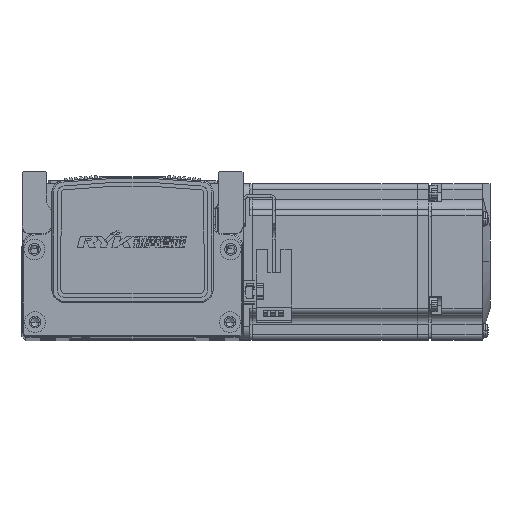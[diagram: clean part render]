
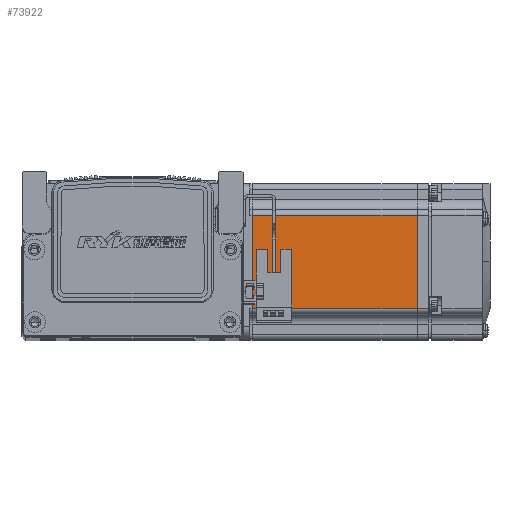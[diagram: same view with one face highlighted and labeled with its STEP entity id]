
A CAD part, top view. The second image highlights one B-rep face of the part: STEP entity #73922.
In plain terms, the highlighted planar face has unit normal (0, 0, 1) as drawn and (0, 0, -1) by its records, which use the part's own axes.
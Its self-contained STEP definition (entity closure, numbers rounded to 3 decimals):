
#14605 = LINE ( 'NONE', #22176, #14640 ) ;
#14625 = LINE ( 'NONE', #22168, #14641 ) ;
#14640 = VECTOR ( 'NONE', #22166, 1000. ) ;
#14641 = VECTOR ( 'NONE', #22146, 1000. ) ;
#14659 = LINE ( 'NONE', #22251, #14694 ) ;
#14666 = LINE ( 'NONE', #22227, #14673 ) ;
#14673 = VECTOR ( 'NONE', #22258, 1000. ) ;
#14694 = VECTOR ( 'NONE', #22229, 1000. ) ;
#19160 = CARTESIAN_POINT ( 'NONE',  ( -7.75, -18., -30. ) ) ;
#19164 = CARTESIAN_POINT ( 'NONE',  ( -70.95, 18., -30. ) ) ;
#19186 = CARTESIAN_POINT ( 'NONE',  ( -7.75, 18., -30. ) ) ;
#19230 = CARTESIAN_POINT ( 'NONE',  ( -70.95, -18., -30. ) ) ;
#22146 = DIRECTION ( 'NONE',  ( -1., 0., 0. ) ) ;
#22166 = DIRECTION ( 'NONE',  ( 0., -1., 0. ) ) ;
#22168 = CARTESIAN_POINT ( 'NONE',  ( -6.5, -18., -30. ) ) ;
#22176 = CARTESIAN_POINT ( 'NONE',  ( -7.75, 25., -30. ) ) ;
#22227 = CARTESIAN_POINT ( 'NONE',  ( -70.95, 25., -30. ) ) ;
#22229 = DIRECTION ( 'NONE',  ( 1., 0., 0. ) ) ;
#22251 = CARTESIAN_POINT ( 'NONE',  ( -6.5, 18., -30. ) ) ;
#22258 = DIRECTION ( 'NONE',  ( 0., 1., 0. ) ) ;
#30911 = FACE_OUTER_BOUND ( 'NONE', #61016, .T. ) ;
#35648 = DIRECTION ( 'NONE',  ( 0., 0., -1. ) ) ;
#35710 = CARTESIAN_POINT ( 'NONE',  ( -6.5, 25., -30. ) ) ;
#35718 = PLANE ( 'NONE',  #38382 ) ;
#35730 = DIRECTION ( 'NONE',  ( -1., 0., 0. ) ) ;
#38382 = AXIS2_PLACEMENT_3D ( 'NONE', #35710, #35648, #35730 ) ;
#43456 = VERTEX_POINT ( 'NONE', #19160 ) ;
#43457 = VERTEX_POINT ( 'NONE', #19164 ) ;
#43557 = VERTEX_POINT ( 'NONE', #19186 ) ;
#43585 = VERTEX_POINT ( 'NONE', #19230 ) ;
#46710 = ORIENTED_EDGE ( 'NONE', *, *, #76003, .T. ) ;
#46808 = ORIENTED_EDGE ( 'NONE', *, *, #76031, .T. ) ;
#46828 = ORIENTED_EDGE ( 'NONE', *, *, #76077, .T. ) ;
#46860 = ORIENTED_EDGE ( 'NONE', *, *, #76092, .T. ) ;
#61016 = EDGE_LOOP ( 'NONE', ( #46710, #46808, #46860, #46828 ) ) ;
#73922 = ADVANCED_FACE ( 'NONE', ( #30911 ), #35718, .T. ) ;
#76003 = EDGE_CURVE ( 'NONE', #43557, #43456, #14605, .T. ) ;
#76031 = EDGE_CURVE ( 'NONE', #43456, #43585, #14625, .T. ) ;
#76077 = EDGE_CURVE ( 'NONE', #43457, #43557, #14659, .T. ) ;
#76092 = EDGE_CURVE ( 'NONE', #43585, #43457, #14666, .T. ) ;
